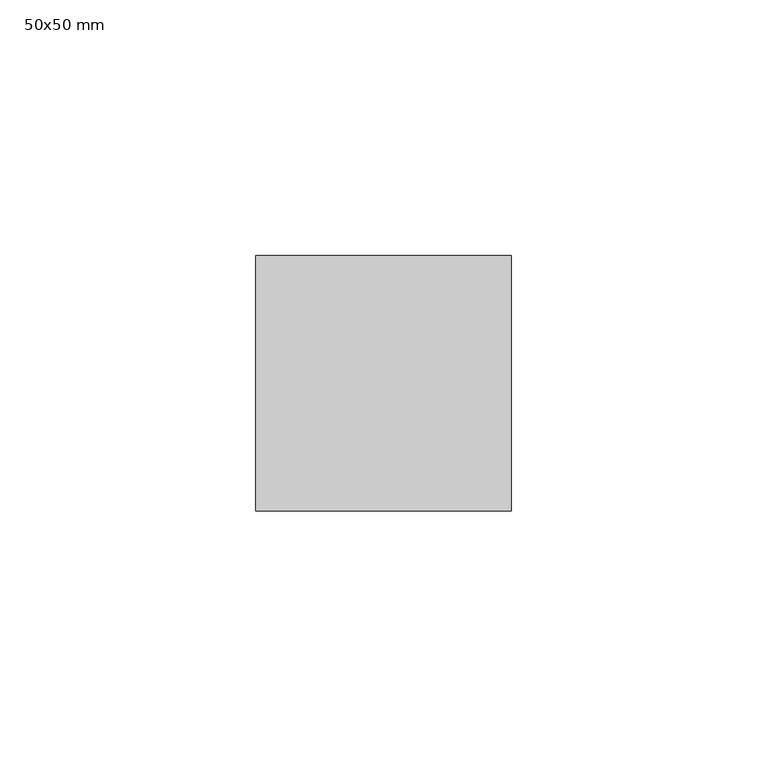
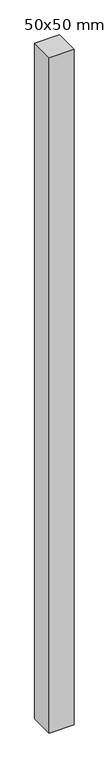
"""IFC4 building model written with IfcOpenShell, lengths in millimetres: member geometry, Obdélníková příčel : 50x50 mm."""

from ifc_helpers import new_model, si_unit, frame, origin, place, context, project, spatial, polyline, outline, extrude, source, transform, mapped, element, save


def member_50x50_mm_0b25df5f(model_context):
    return source(origin(), model_context, "Body", "SweptSolid", [
        extrude(outline(polyline([(0.0, 25.0), (0.0, -25.0), (-50.0, -25.0), (-50.0, 25.0), (0.0, 25.0)])), frame((0.0, 0.0, -1425.0), z_axis=(0.0, 0.0, 1.0), x_axis=(1.0, 0.0, 0.0)), (0.0, 0.0, 1.0), 1425.0),
    ])


if __name__ == "__main__":
    model = new_model("IFC4")
    model_context = context("Model", 3, world=origin())
    ifc_project = project(units=[si_unit("LENGTHUNIT", "METRE", prefix="MILLI")], contexts=[model_context])
    site = spatial("IfcSite", under=ifc_project)
    building = spatial("IfcBuilding", under=site)
    placement = place(None, origin())
    member_50x50_mm_shape = member_50x50_mm_0b25df5f(model_context)
    element("IfcMember", 1, ObjectType="Obdélníková příčel : 50x50 mm", at=placement, inside=building, context=model_context, shape_type="MappedRepresentation", body=[
        mapped(member_50x50_mm_shape, transform((0.0, 0.0, 0.0), x_axis=(1.0, 0.0, 0.0), y_axis=(0.0, 1.0, 0.0), z_axis=(0.0, 0.0, 1.0))),
    ])
    save(model, "model.ifc")
